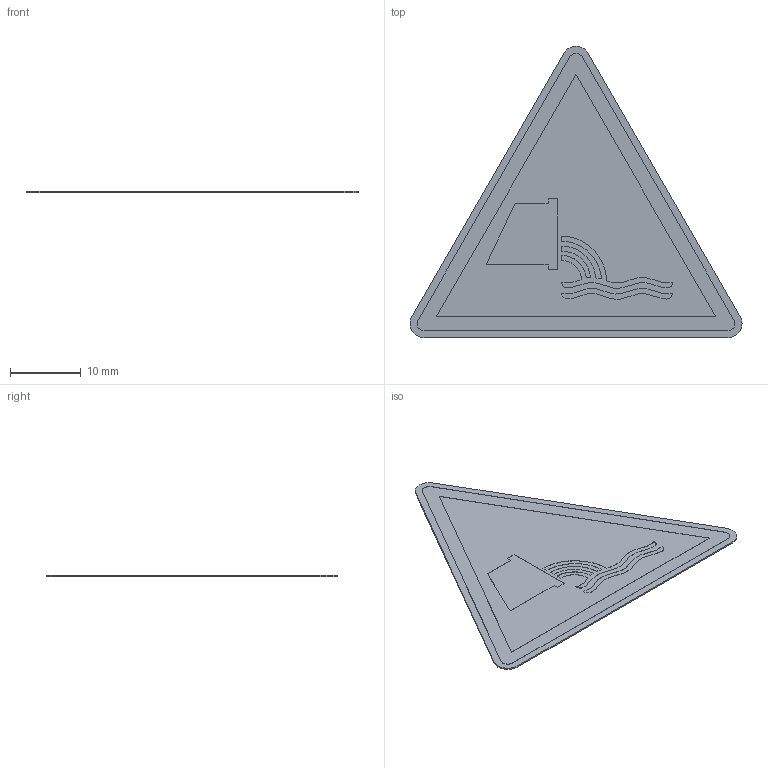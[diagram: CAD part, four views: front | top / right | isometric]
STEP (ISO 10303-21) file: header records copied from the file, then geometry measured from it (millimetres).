
FILE_DESCRIPTION (( 'STEP AP214' ), '1' );
FILE_NAME ('W055_Warnung vor Abwassereinleitung.STEP', '2022-03-05T05:22:23', ( '' ), ( '' ), 'SwSTEP 2.0', 'SolidWorks 2021', '' );
FILE_SCHEMA (( 'AUTOMOTIVE_DESIGN' ));
Length unit declared in the file: millimetre
Products named in the file (1): W055_Warnung vor Abwassereinleitung
Bounding box: 47.07 x 41.3 x 0.22 mm (x, y, z)
Volume: 222.2 mm3; surface area: 2185 mm2
Topology: 1 solids, 1 shells, 155 faces, 444 edges, 296 vertices
Faces by surface type: plane 140, cylinder 15
Entity records: 6617 total; most frequent: CARTESIAN_POINT 896, ORIENTED_EDGE 888, DIRECTION 786, EDGE_CURVE 444, LINE 414, VECTOR 414, VERTEX_POINT 296, AXIS2_PLACEMENT_3D 186
